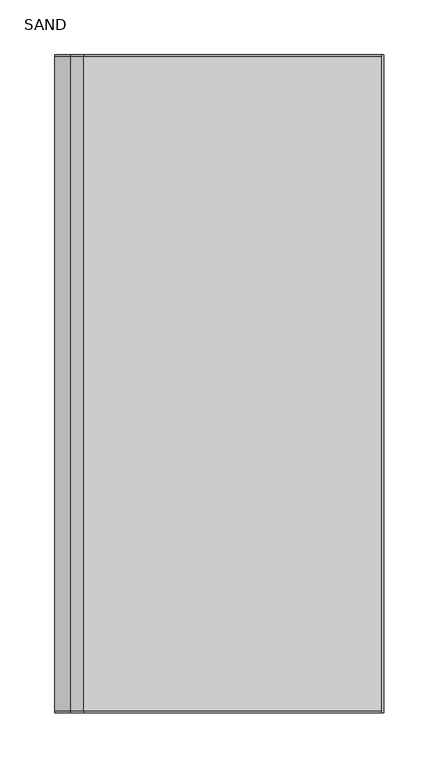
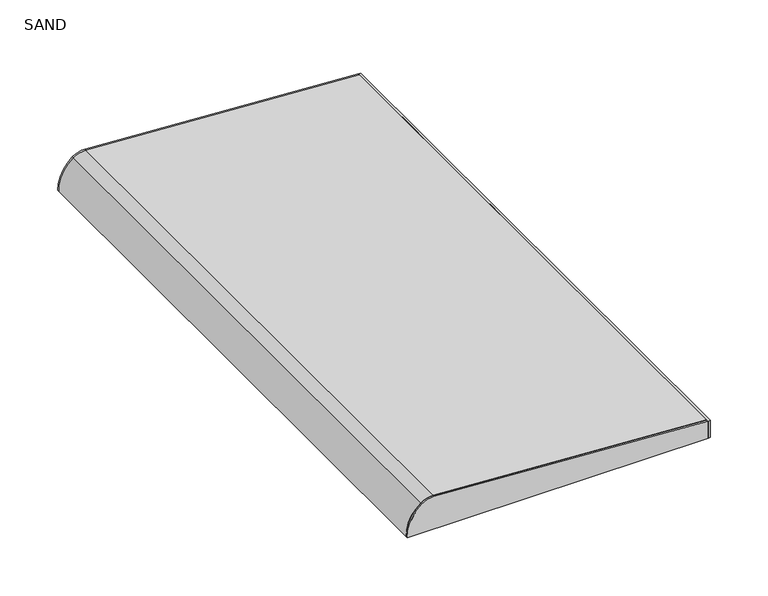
"""IFC4 building model written with IfcOpenShell, lengths in millimetres: proxy geometry, BORDA MONOLITH POOL SAND 30X60 EXT BOLD : SAND."""

from ifc_helpers import new_model, si_unit, point, frame, frame_2d, origin, place, context, project, spatial, polyline, circle_curve, trimmed, segment, composite_curve, outline, extrude, source, transform, mapped, element, save


def sand_3f98117f(model_context):
    return source(origin(), model_context, "Body", "SweptSolid", [
        extrude(outline(polyline([(60.0, 302.0), (60.0, -302.0), (58.0, -302.0), (58.0, 302.0), (60.0, 302.0)])), frame((0.0, 0.0, -18.0000002), z_axis=(0.0, 0.0, 1.0), x_axis=(1.0, 0.0, 0.0)), (0.0, 0.0, 1.0), 18.0000002),
        extrude(outline(composite_curve([segment(trimmed(circle_curve(frame_2d((-2.7508318, -216.2453378)), 18.8258307), [point((16.0426114, -215.1415295))], [point((12.2702543, -227.5934158))], False, "CARTESIAN"), True, "CONTINUOUS"), segment(trimmed(circle_curve(frame_2d((-16.7149341, -205.6957864)), 36.3269503), [point((12.2702543, -227.5934158))], [point((-18.0000002, -242.0))], False, "CARTESIAN"), True, "CONTINUOUS"), segment(polyline([(-18.0000002, -242.0), (-18.0000002, 58.0), (0.0, 58.0), (16.0426114, -215.1415295)]), True, "CONTINUOUS")], self_intersect=False)), frame((0.0, -300.0, 0.0), z_axis=(0.0, 1.0, 0.0), x_axis=(0.0, 0.0, 1.0)), (0.0, 0.0, 1.0), 600.0),
        extrude(outline(composite_curve([segment(polyline([(0.0, 58.0), (16.0426114, -215.1415295)]), True, "CONTINUOUS"), segment(trimmed(circle_curve(frame_2d((-2.7508318, -216.2453378)), 18.8258307), [point((16.0426114, -215.1415295))], [point((12.2702543, -227.5934158))], False, "CARTESIAN"), True, "CONTINUOUS"), segment(trimmed(circle_curve(frame_2d((-16.7149341, -205.6957864)), 36.3269503), [point((12.2702543, -227.5934158))], [point((-18.0000002, -242.0))], False, "CARTESIAN"), True, "CONTINUOUS"), segment(polyline([(-18.0000002, -242.0), (-18.0000002, 58.0), (0.0, 58.0)]), True, "CONTINUOUS")], self_intersect=False)), frame((0.0, -302.0, 0.0), z_axis=(0.0, 1.0, 0.0), x_axis=(0.0, 0.0, 1.0)), (0.0, 0.0, 1.0), 2.0),
        extrude(outline(composite_curve([segment(polyline([(0.0, 58.0), (16.0426114, -215.1415295)]), True, "CONTINUOUS"), segment(trimmed(circle_curve(frame_2d((-2.7508318, -216.2453378)), 18.8258307), [point((16.0426114, -215.1415295))], [point((12.2702543, -227.5934158))], False, "CARTESIAN"), True, "CONTINUOUS"), segment(trimmed(circle_curve(frame_2d((-16.7149341, -205.6957864)), 36.3269503), [point((12.2702543, -227.5934158))], [point((-18.0000002, -242.0))], False, "CARTESIAN"), True, "CONTINUOUS"), segment(polyline([(-18.0000002, -242.0), (-18.0000002, 58.0), (0.0, 58.0)]), True, "CONTINUOUS")], self_intersect=False)), frame((0.0, 300.0, 0.0), z_axis=(0.0, 1.0, 0.0), x_axis=(0.0, 0.0, 1.0)), (0.0, 0.0, 1.0), 2.0),
    ])


if __name__ == "__main__":
    model = new_model("IFC4")
    model_context = context("Model", 3, world=origin())
    ifc_project = project(units=[si_unit("LENGTHUNIT", "METRE", prefix="MILLI")], contexts=[model_context])
    site = spatial("IfcSite", under=ifc_project)
    building = spatial("IfcBuilding", under=site)
    placement = place(None, origin())
    sand_shape = sand_3f98117f(model_context)
    element("IfcBuildingElementProxy", 1, Name="BORDA MONOLITH POOL SAND 30X60 EXT BOLD : SAND", ObjectType="BORDA MONOLITH POOL SAND 30X60 EXT BOLD : SAND", at=placement, inside=building, context=model_context, shape_type="MappedRepresentation", body=[
        mapped(sand_shape, transform((0.0, 0.0, 0.0), x_axis=(1.0, 0.0, 0.0), y_axis=(0.0, 1.0, 0.0), z_axis=(0.0, 0.0, 1.0))),
    ])
    save(model, "model.ifc")
